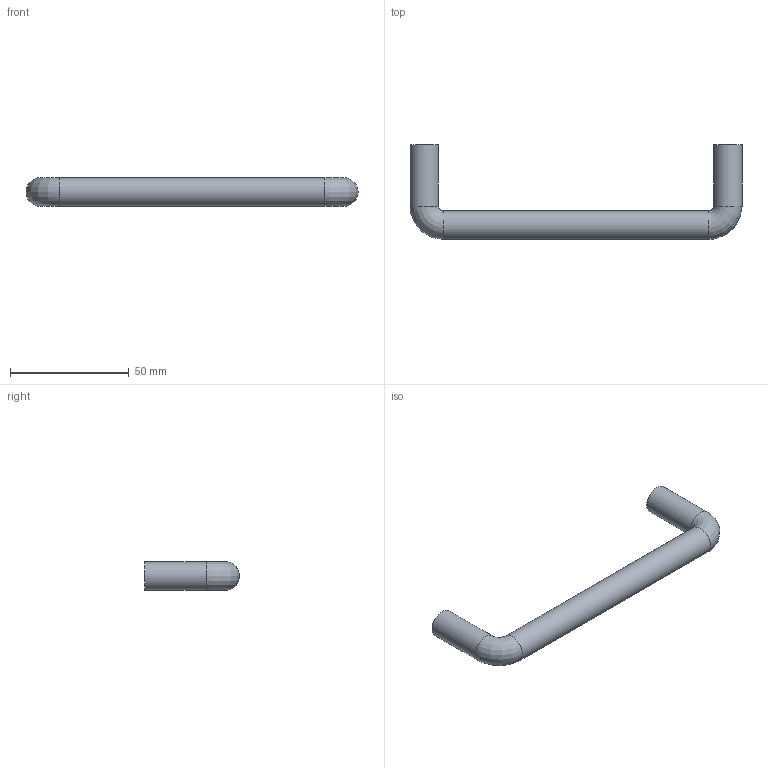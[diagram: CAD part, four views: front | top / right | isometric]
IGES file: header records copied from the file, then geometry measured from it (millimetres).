
Start section: Data from Parasolid IGES Translator 15.0.47, Copyright(c) 2006 Siemens P LM Software. All Rights Reserved.
Global section: file name: 9070103.igs; native system:  By UGS Corp.; preprocessor: XPlus GENERIC/IGES 3.0; author: Noname; organization: Noname; date: 20140122.155435; units: millimetre
Bounding box: 140 x 40 x 12 mm (x, y, z)
Surface area: 7607.7 mm2 (no closed solid volume)
Topology: 0 solids, 0 shells, 11 faces, 42 edges, 38 vertices
Faces by surface type: revolution 7, extrusion 4
